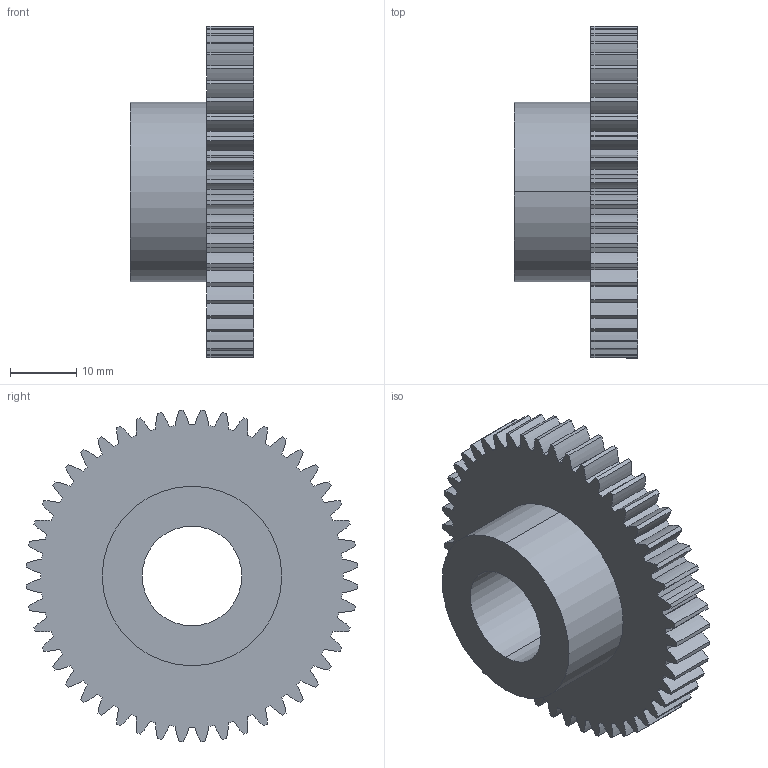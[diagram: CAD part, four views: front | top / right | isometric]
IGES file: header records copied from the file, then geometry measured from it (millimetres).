
Start section: 3D InterOp IGES (v. 2020 1.0.1), Spatial Corp. Copyright (c) 1999-2017.
Global section: file name: p10_w7_t48_b.igs; native system: Spatial Corp.; preprocessor: 3D InterOp ACIS/IGES; author: TraceParts; organization: TraceParts S.A.; date: 20220624.034040; units: millimetre
Bounding box: 18.5 x 49.93 x 49.93 mm (x, y, z)
Surface area: 7179.7 mm2 (no closed solid volume)
Topology: 0 solids, 0 shells, 209 faces, 1236 edges, 1236 vertices
Faces by surface type: revolution 206, extrusion 3
